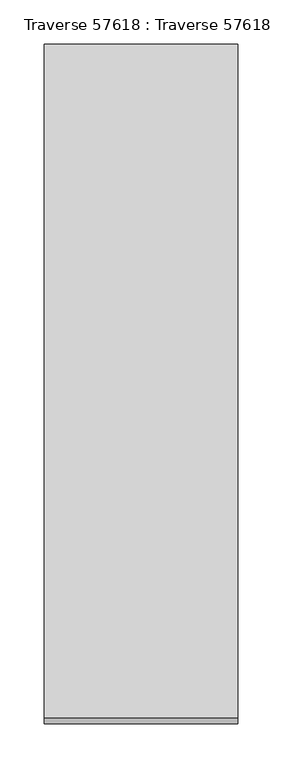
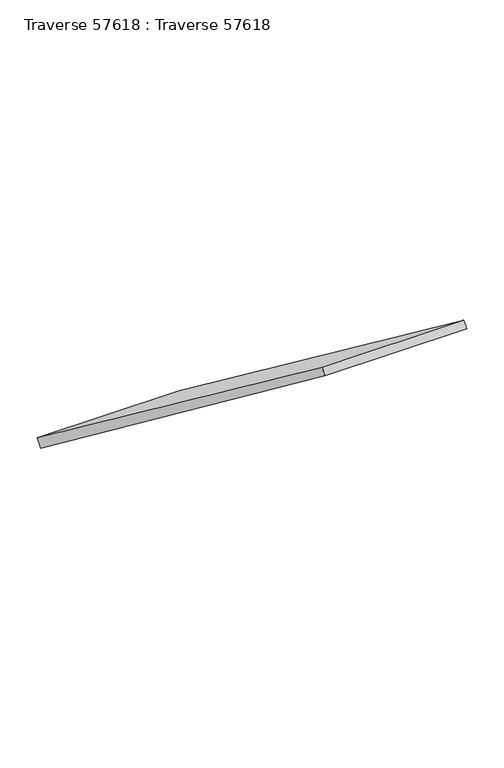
"""IFC4 building model written with IfcOpenShell, lengths in millimetres: beam geometry, Traverse 57618 : Traverse 57618."""

from ifc_helpers import new_model, si_unit, frame, origin, place, context, project, spatial, polyline, outline, extrude, source, transform, mapped, element, save


def traverse_57618_traverse_57618_0c66f7d8(model_context):
    return source(origin(), model_context, "Body", "SweptSolid", [
        extrude(outline(polyline([(-29628.0310652, 6838.4716659), (-30391.5357801, 7420.6361605), (-30384.336575, 7430.14), (-29619.0, 6850.3937869), (-29628.0310652, 6838.4716659)])), frame((-110.0000001, 0.0, 0.0), z_axis=(1.0, 0.0, 0.0), x_axis=(0.0, 1.0, 0.0)), (0.0, 0.0, 1.0), 220.0),
    ])


if __name__ == "__main__":
    model = new_model("IFC4")
    model_context = context("Model", 3, world=origin())
    ifc_project = project(units=[si_unit("LENGTHUNIT", "METRE", prefix="MILLI")], contexts=[model_context])
    site = spatial("IfcSite", under=ifc_project)
    building = spatial("IfcBuilding", under=site)
    placement = place(None, origin())
    traverse_57618_traverse_57618_shape = traverse_57618_traverse_57618_0c66f7d8(model_context)
    element("IfcBeam", 1, ObjectType="Traverse 57618 : Traverse 57618", at=placement, inside=building, context=model_context, shape_type="MappedRepresentation", body=[
        mapped(traverse_57618_traverse_57618_shape, transform((0.0, 0.0, 0.0), x_axis=(1.0, 0.0, 0.0), y_axis=(0.0, 1.0, 0.0), z_axis=(0.0, 0.0, 1.0))),
    ])
    save(model, "model.ifc")
